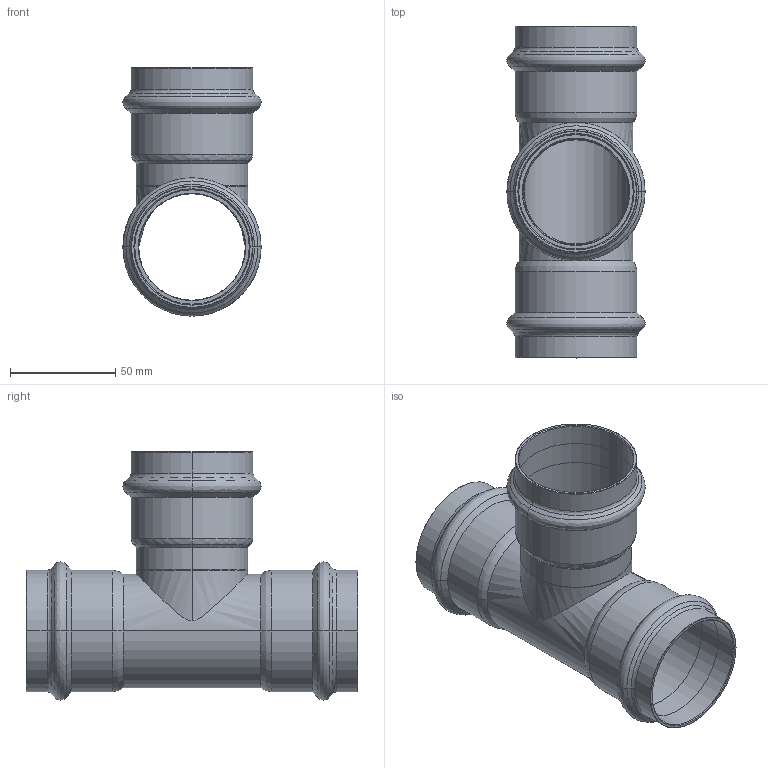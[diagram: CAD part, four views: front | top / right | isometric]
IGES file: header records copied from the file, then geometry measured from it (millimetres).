
Start section: Elysium IGES Interface
Global section: file name: C:\3d modellen sudo\C-Pr VP\SP8130V\8130VW54.igs; native system: CoCreate Modeling 17.00A  17-Jun-2010; preprocessor: CoCreate IGES_3D V2.2; author: Unknown; organization: Unknown; date: 20130129.162238; units: millimetre
Bounding box: 65.68 x 157.73 x 117.92 mm (x, y, z)
Volume: 77211 mm3; surface area: 77125.7 mm2
Topology: 1 solids, 1 shells, 128 faces, 261 edges, 143 vertices
Faces by surface type: bspline 128
